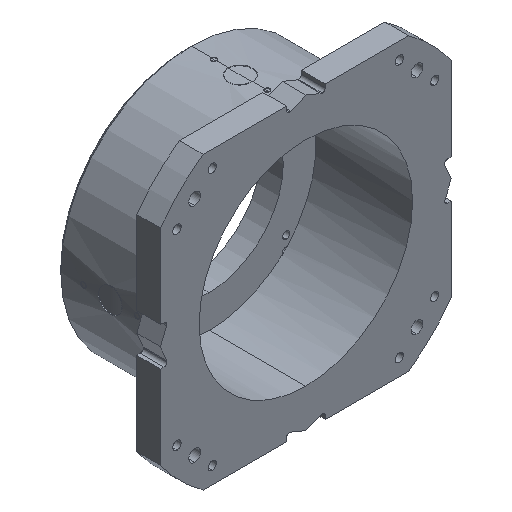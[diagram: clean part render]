
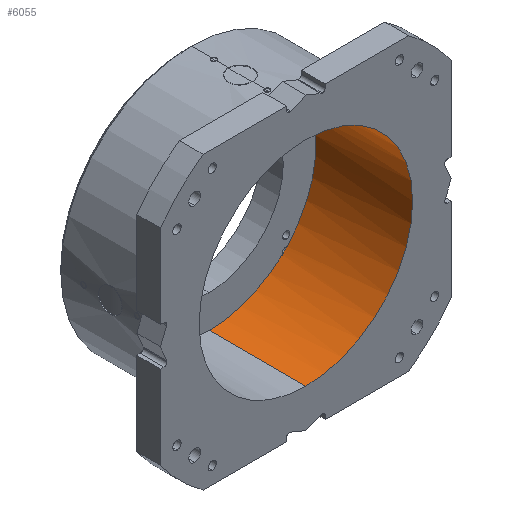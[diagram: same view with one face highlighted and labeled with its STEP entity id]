
A CAD part, isometric view. The second image highlights one B-rep face of the part: STEP entity #6055.
In plain terms, the highlighted cylindrical face has radius 180 mm (diameter 360 mm), a partial arc.
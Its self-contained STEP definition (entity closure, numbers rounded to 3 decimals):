
#1 = FACE_OUTER_BOUND ( 'NONE', #2889, .T. ) ;
#405 = AXIS2_PLACEMENT_3D ( 'NONE', #6043, #1253, #743 ) ;
#591 = DIRECTION ( 'NONE',  ( 0., 0., 1. ) ) ;
#743 = DIRECTION ( 'NONE',  ( 0., 0., 1. ) ) ;
#770 = CIRCLE ( 'NONE', #5204, 180. ) ;
#936 = VERTEX_POINT ( 'NONE', #7126 ) ;
#994 = VERTEX_POINT ( 'NONE', #4117 ) ;
#1033 = CARTESIAN_POINT ( 'NONE',  ( 0., 0., 180. ) ) ;
#1056 = AXIS2_PLACEMENT_3D ( 'NONE', #1893, #3679, #4318 ) ;
#1253 = DIRECTION ( 'NONE',  ( 0., 1., 0. ) ) ;
#1280 = CARTESIAN_POINT ( 'NONE',  ( 0., 0., 0. ) ) ;
#1283 = DIRECTION ( 'NONE',  ( 0., 0., 1. ) ) ;
#1346 = EDGE_CURVE ( 'NONE', #6300, #6194, #770, .T. ) ;
#1474 = EDGE_CURVE ( 'NONE', #6677, #6369, #2772, .T. ) ;
#1526 = ORIENTED_EDGE ( 'NONE', *, *, #4979, .T. ) ;
#1553 = CIRCLE ( 'NONE', #3311, 180. ) ;
#1744 = AXIS2_PLACEMENT_3D ( 'NONE', #1280, #3696, #591 ) ;
#1844 = DIRECTION ( 'NONE',  ( 0., 0., 1. ) ) ;
#1891 = EDGE_CURVE ( 'NONE', #3862, #6677, #2377, .T. ) ;
#1893 = CARTESIAN_POINT ( 'NONE',  ( 0., 163., 0. ) ) ;
#1932 = CIRCLE ( 'NONE', #1056, 180. ) ;
#2169 = ORIENTED_EDGE ( 'NONE', *, *, #2652, .F. ) ;
#2332 = DIRECTION ( 'NONE',  ( 0., 0., 1. ) ) ;
#2366 = VECTOR ( 'NONE', #7473, 1000. ) ;
#2377 = LINE ( 'NONE', #7219, #4176 ) ;
#2652 = EDGE_CURVE ( 'NONE', #3862, #5075, #5449, .T. ) ;
#2688 = ORIENTED_EDGE ( 'NONE', *, *, #1891, .T. ) ;
#2772 = CIRCLE ( 'NONE', #7589, 180. ) ;
#2842 = AXIS2_PLACEMENT_3D ( 'NONE', #6804, #7448, #7365 ) ;
#2857 = CARTESIAN_POINT ( 'NONE',  ( 0., 163., 180. ) ) ;
#2889 = EDGE_LOOP ( 'NONE', ( #3931, #2169, #2688, #7131, #5857, #1526, #4494, #5267 ) ) ;
#2989 = DIRECTION ( 'NONE',  ( 0., 1., 0. ) ) ;
#3065 = DIRECTION ( 'NONE',  ( 0., 1., 0. ) ) ;
#3311 = AXIS2_PLACEMENT_3D ( 'NONE', #6604, #3444, #2332 ) ;
#3444 = DIRECTION ( 'NONE',  ( 0., 1., 0. ) ) ;
#3674 = EDGE_CURVE ( 'NONE', #6369, #994, #1553, .T. ) ;
#3679 = DIRECTION ( 'NONE',  ( 0., 1., 0. ) ) ;
#3696 = DIRECTION ( 'NONE',  ( 0., 1., 0. ) ) ;
#3770 = EDGE_CURVE ( 'NONE', #6194, #936, #1932, .T. ) ;
#3786 = CARTESIAN_POINT ( 'NONE',  ( 0., 0., -180. ) ) ;
#3862 = VERTEX_POINT ( 'NONE', #1033 ) ;
#3931 = ORIENTED_EDGE ( 'NONE', *, *, #5795, .F. ) ;
#3945 = LINE ( 'NONE', #3786, #2366 ) ;
#4117 = CARTESIAN_POINT ( 'NONE',  ( 131.304, 163., 123.123 ) ) ;
#4176 = VECTOR ( 'NONE', #6654, 1000. ) ;
#4252 = CYLINDRICAL_SURFACE ( 'NONE', #1744, 180. ) ;
#4318 = DIRECTION ( 'NONE',  ( 0., 0., 1. ) ) ;
#4494 = ORIENTED_EDGE ( 'NONE', *, *, #1346, .T. ) ;
#4923 = CARTESIAN_POINT ( 'NONE',  ( 0., 163., 0. ) ) ;
#4979 = EDGE_CURVE ( 'NONE', #994, #6300, #6009, .T. ) ;
#5075 = VERTEX_POINT ( 'NONE', #5228 ) ;
#5204 = AXIS2_PLACEMENT_3D ( 'NONE', #4923, #2989, #1283 ) ;
#5228 = CARTESIAN_POINT ( 'NONE',  ( 0., 0., -180. ) ) ;
#5267 = ORIENTED_EDGE ( 'NONE', *, *, #3770, .T. ) ;
#5430 = CARTESIAN_POINT ( 'NONE',  ( 131.304, 163., -123.123 ) ) ;
#5449 = CIRCLE ( 'NONE', #405, 180. ) ;
#5795 = EDGE_CURVE ( 'NONE', #5075, #936, #3945, .T. ) ;
#5822 = CARTESIAN_POINT ( 'NONE',  ( 123.123, 163., -131.304 ) ) ;
#5857 = ORIENTED_EDGE ( 'NONE', *, *, #3674, .T. ) ;
#6009 = CIRCLE ( 'NONE', #2842, 180. ) ;
#6032 = CARTESIAN_POINT ( 'NONE',  ( 0., 163., 0. ) ) ;
#6043 = CARTESIAN_POINT ( 'NONE',  ( 0., 0., 0. ) ) ;
#6055 = ADVANCED_FACE ( 'NONE', ( #1 ), #4252, .F. ) ;
#6194 = VERTEX_POINT ( 'NONE', #5822 ) ;
#6300 = VERTEX_POINT ( 'NONE', #5430 ) ;
#6369 = VERTEX_POINT ( 'NONE', #7455 ) ;
#6604 = CARTESIAN_POINT ( 'NONE',  ( 0., 163., 0. ) ) ;
#6654 = DIRECTION ( 'NONE',  ( 0., 1., 0. ) ) ;
#6677 = VERTEX_POINT ( 'NONE', #2857 ) ;
#6804 = CARTESIAN_POINT ( 'NONE',  ( 0., 163., 0. ) ) ;
#7126 = CARTESIAN_POINT ( 'NONE',  ( 0., 163., -180. ) ) ;
#7131 = ORIENTED_EDGE ( 'NONE', *, *, #1474, .T. ) ;
#7219 = CARTESIAN_POINT ( 'NONE',  ( 0., 0., 180. ) ) ;
#7365 = DIRECTION ( 'NONE',  ( 0., 0., 1. ) ) ;
#7448 = DIRECTION ( 'NONE',  ( 0., 1., 0. ) ) ;
#7455 = CARTESIAN_POINT ( 'NONE',  ( 123.123, 163., 131.304 ) ) ;
#7473 = DIRECTION ( 'NONE',  ( 0., 1., 0. ) ) ;
#7589 = AXIS2_PLACEMENT_3D ( 'NONE', #6032, #3065, #1844 ) ;
